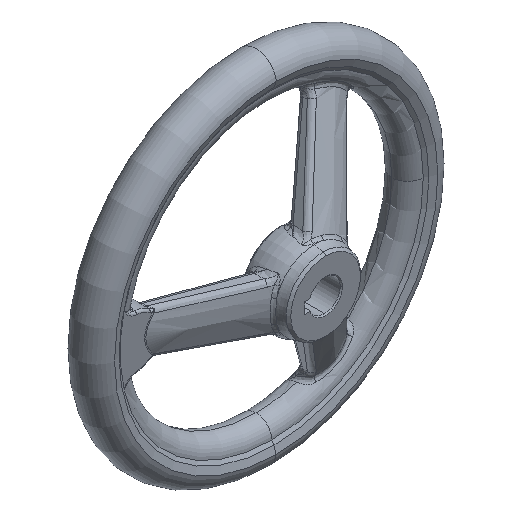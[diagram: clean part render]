
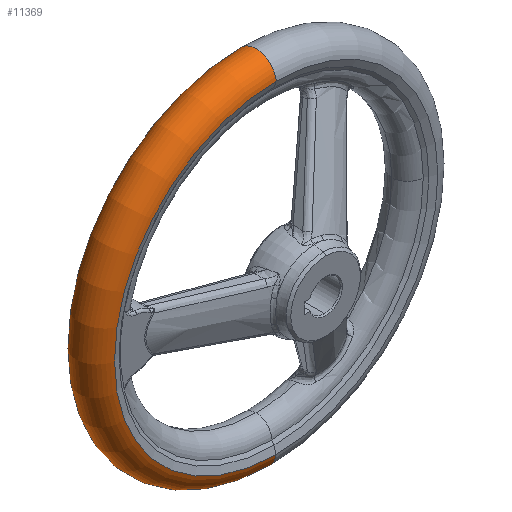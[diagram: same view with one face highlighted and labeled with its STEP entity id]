
A CAD part, isometric view. The second image highlights one B-rep face of the part: STEP entity #11369.
In plain terms, the highlighted toroidal (fillet/blend) face has major radius 70.938 mm and minor radius 9.062 mm.
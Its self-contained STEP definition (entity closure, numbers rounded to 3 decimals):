
#136 = EDGE_CURVE ( 'NONE', #25471, #25456, #7598, .T. ) ;
#2234 = CARTESIAN_POINT ( 'NONE',  ( 0., 40., -72. ) ) ;
#2406 = DIRECTION ( 'NONE',  ( 0., 0., -1. ) ) ;
#2407 = DIRECTION ( 'NONE',  ( 0., -1., 0. ) ) ;
#2408 = AXIS2_PLACEMENT_3D ( 'NONE', #2417, #2407, #2406 ) ;
#2417 = CARTESIAN_POINT ( 'NONE',  ( 0., 40., 0. ) ) ;
#2425 = CIRCLE ( 'NONE', #2408, 72. ) ;
#7598 = CIRCLE ( 'NONE', #7602, 72. ) ;
#7602 = AXIS2_PLACEMENT_3D ( 'NONE', #7652, #7639, #7638 ) ;
#7638 = DIRECTION ( 'NONE',  ( 0., 0., -1. ) ) ;
#7639 = DIRECTION ( 'NONE',  ( 0., -1., 0. ) ) ;
#7652 = CARTESIAN_POINT ( 'NONE',  ( 0., 22., 0. ) ) ;
#11084 = VERTEX_POINT ( 'NONE', #2234 ) ;
#11096 = EDGE_CURVE ( 'NONE', #25473, #11084, #2425, .T. ) ;
#11354 = ORIENTED_EDGE ( 'NONE', *, *, #136, .F. ) ;
#11358 = ORIENTED_EDGE ( 'NONE', *, *, #11096, .T. ) ;
#11359 = ORIENTED_EDGE ( 'NONE', *, *, #25493, .T. ) ;
#11366 = ORIENTED_EDGE ( 'NONE', *, *, #25497, .F. ) ;
#11369 = ADVANCED_FACE ( 'NONE', ( #22231 ), #22234, .T. ) ;
#11370 = EDGE_LOOP ( 'NONE', ( #11366, #11358, #11359, #11354 ) ) ;
#22223 = DIRECTION ( 'NONE',  ( 0., 0., -1. ) ) ;
#22226 = DIRECTION ( 'NONE',  ( 0., -1., 0. ) ) ;
#22231 = FACE_OUTER_BOUND ( 'NONE', #11370, .T. ) ;
#22234 = TOROIDAL_SURFACE ( 'NONE', #22237, 70.938, 9.063 ) ;
#22235 = CARTESIAN_POINT ( 'NONE',  ( 0., 31., 0. ) ) ;
#22237 = AXIS2_PLACEMENT_3D ( 'NONE', #22235, #22226, #22223 ) ;
#25243 = CARTESIAN_POINT ( 'NONE',  ( 0., 22., -72. ) ) ;
#25274 = CARTESIAN_POINT ( 'NONE',  ( 0., 40., 72. ) ) ;
#25279 = CARTESIAN_POINT ( 'NONE',  ( 0., 22., 72. ) ) ;
#25300 = DIRECTION ( 'NONE',  ( 0., 0., 1. ) ) ;
#25301 = DIRECTION ( 'NONE',  ( -1., 0., 0. ) ) ;
#25302 = CARTESIAN_POINT ( 'NONE',  ( 0., 31., -70.938 ) ) ;
#25309 = AXIS2_PLACEMENT_3D ( 'NONE', #25302, #25301, #25300 ) ;
#25338 = DIRECTION ( 'NONE',  ( 0., 0., -1. ) ) ;
#25339 = DIRECTION ( 'NONE',  ( 1., 0., 0. ) ) ;
#25340 = CARTESIAN_POINT ( 'NONE',  ( 0., 31., 70.938 ) ) ;
#25347 = CIRCLE ( 'NONE', #25349, 9.063 ) ;
#25349 = AXIS2_PLACEMENT_3D ( 'NONE', #25340, #25339, #25338 ) ;
#25352 = CIRCLE ( 'NONE', #25309, 9.063 ) ;
#25456 = VERTEX_POINT ( 'NONE', #25243 ) ;
#25471 = VERTEX_POINT ( 'NONE', #25279 ) ;
#25473 = VERTEX_POINT ( 'NONE', #25274 ) ;
#25493 = EDGE_CURVE ( 'NONE', #11084, #25456, #25352, .T. ) ;
#25497 = EDGE_CURVE ( 'NONE', #25473, #25471, #25347, .T. ) ;
